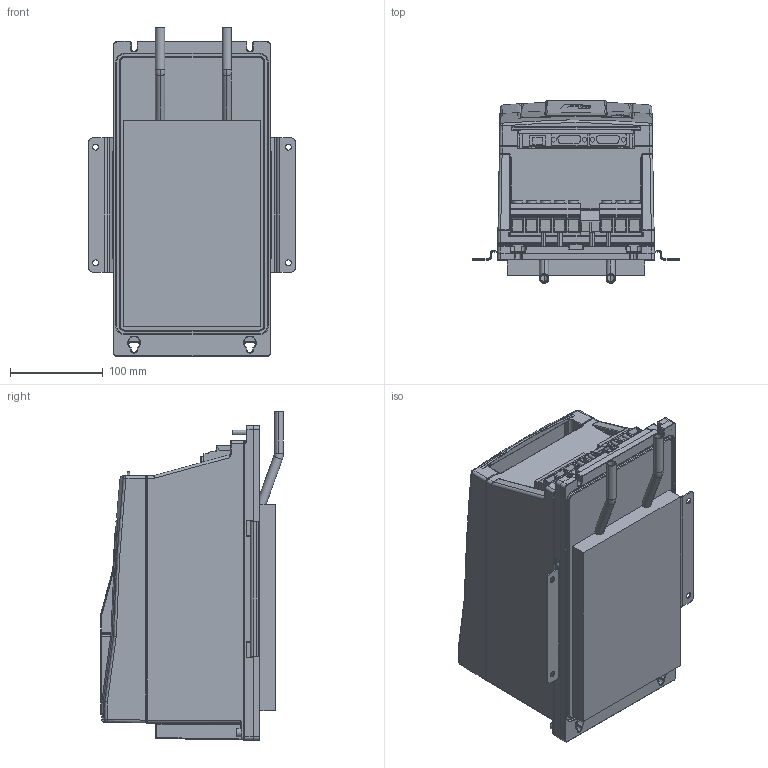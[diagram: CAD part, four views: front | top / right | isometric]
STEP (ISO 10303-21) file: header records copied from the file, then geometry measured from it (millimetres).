
FILE_DESCRIPTION (( 'STEP AP214' ), '1' );
FILE_NAME ('F6-3 TW5-A030.STEP', '2022-05-25T09:34:26', ( '' ), ( '' ), 'SwSTEP 2.0', 'SolidWorks 2019', '' );
FILE_SCHEMA (( 'AUTOMOTIVE_DESIGN' ));
Length unit declared in the file: millimetre
Products named in the file (9): Kundenmodell^10059764_000; Kundenmodell^10035736_000; 10059764_000_Blindabdeckung (Kundenmodell); F6-3 TW5-A030; 10068340_000_Leistungsteil TW5 (Kundenmodell); 10040482_000_Kundenmodell; 10035736_000_Kundenmodell; Kundenmodell^10040482_000; Kundenmodell^10068340_000
Assembly tree (8 placements, depth 4):
  F6-3 TW5-A030
    10068340_000_Leistungsteil TW5 (Kundenmodell)
      Kundenmodell^10068340_000
    10040482_000_Kundenmodell
      Kundenmodell^10040482_000
    10035736_000_Kundenmodell
      10059764_000_Blindabdeckung (Kundenmodell)
        Kundenmodell^10059764_000
      Kundenmodell^10035736_000
Bounding box: 223 x 197.4 x 355 mm (x, y, z)
Volume: 7989887.4 mm3; surface area: 589041.7 mm2
Topology: 11 solids, 14 shells, 2191 faces, 5523 edges, 3386 vertices
Faces by surface type: plane 926, cylinder 674, bspline 339, torus 119, cone 83, sphere 50
Entity records: 73176 total; most frequent: CARTESIAN_POINT 23132, ORIENTED_EDGE 10918, DIRECTION 9566, EDGE_CURVE 5459, VERTEX_POINT 3385, AXIS2_PLACEMENT_3D 3302, VECTOR 2962, LINE 2962
